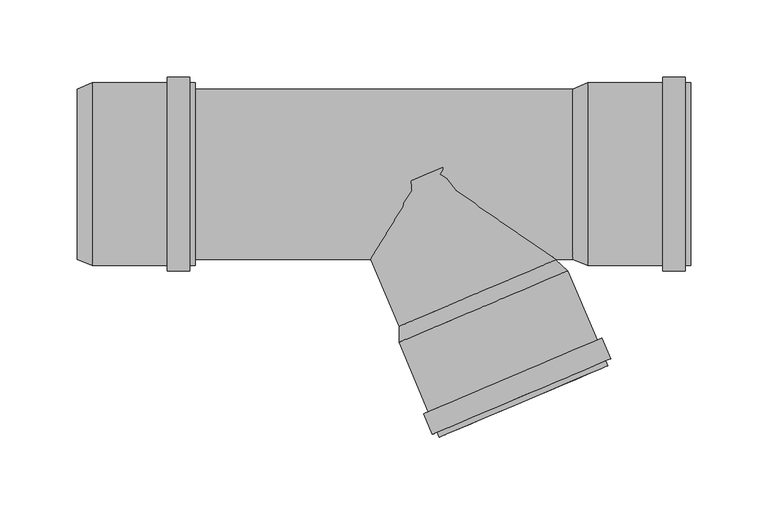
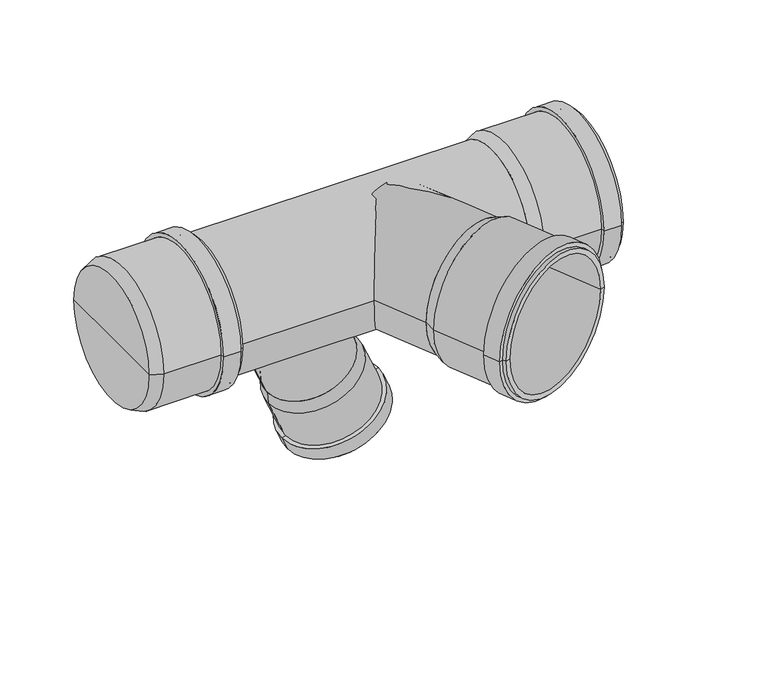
"""IFC4 building model written with IfcOpenShell, lengths in millimetres: pipe fitting geometry, pf_HTEP : pf_HTEP."""

from ifc_helpers import new_model, si_unit, point, frame, origin, origin_2d, place, context, project, spatial, polyline, circle_curve, trimmed, segment, composite_curve, outline, extrude, source, transform, mapped, element, save
from ifc_brep_helpers import plane_surface, cylinder_surface, revolved_surface, advanced_brep


def pipe_fitting_9d72f216(model_context):
    return source(origin(), model_context, "Body", "SolidModel", [
        advanced_brep(
        [(-94.7034701, 0.0, -94.5522386), (-25.665606, 0.0, -65.247404), (-19.1000953, 0.0, -72.7809336), (-93.8450894, 0.0, -104.5083012), (-60.184538, 0.0, -79.8998213), (-73.7224363, 0.0, -151.9143012), (1.0225578, 0.0, -120.1869335), (-1.8310072, 0.0, -121.3982), (-70.8688712, 0.0, -150.7030347), (-75.0509221, 0.0, -148.7845847), (-0.305928, 0.0, -117.057217), (-78.1806386, 0.0, -150.1130705), (2.8237885, 0.0, -115.7287312), (-82.7131197, 0.0, -139.4352142), (-1.7086926, 0.0, -105.0508749), (-79.5834032, 0.0, -138.1067284), (-4.8384091, 0.0, -106.3793607), (-90.9915243, 0.0, -103.2970347), (-21.9536603, 0.0, -73.9922001), (-56.4725923, 0.0, -88.6446174)],
        [
            (0, 1, circle_curve(frame((-60.184538, 0.0, -79.8998213), z_axis=(0.39073112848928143, 0.0, -0.920504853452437), x_axis=(0.920504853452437, 0.0, 0.39073112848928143)), 37.5)),
            (1, 2),
            (2, 3, circle_curve(frame((-56.4725923, 0.0, -88.6446174), z_axis=(-0.39073112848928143, 0.0, 0.920504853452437), x_axis=(0.920504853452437, 0.0, 0.39073112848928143)), 40.6)),
            (3, 0),
            (1, 0, circle_curve(frame((-60.184538, 0.0, -79.8998213), z_axis=(0.39073112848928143, 0.0, -0.920504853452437), x_axis=(0.920504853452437, 0.0, 0.39073112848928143)), 37.5)),
            (3, 2, circle_curve(frame((-56.4725923, 0.0, -88.6446174), z_axis=(-0.39073112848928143, 0.0, 0.920504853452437), x_axis=(0.920504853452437, 0.0, 0.39073112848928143)), 40.6)),
            (4, 1),
            (0, 4),
            (5, 6, circle_curve(frame((-36.3499392, 0.0, -136.0506173), z_axis=(0.39073112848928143, 0.0, -0.920504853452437), x_axis=(0.920504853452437, 0.0, 0.39073112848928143)), 40.6)),
            (6, 7),
            (7, 8, circle_curve(frame((-36.3499392, 0.0, -136.0506173), z_axis=(-0.39073112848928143, 0.0, 0.920504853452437), x_axis=(0.920504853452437, 0.0, 0.39073112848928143)), 37.5)),
            (8, 5),
            (6, 5, circle_curve(frame((-36.3499392, 0.0, -136.0506173), z_axis=(0.39073112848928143, 0.0, -0.920504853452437), x_axis=(0.920504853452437, 0.0, 0.39073112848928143)), 40.6)),
            (8, 7, circle_curve(frame((-36.3499392, 0.0, -136.0506173), z_axis=(-0.39073112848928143, 0.0, 0.920504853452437), x_axis=(0.920504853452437, 0.0, 0.39073112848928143)), 37.5)),
            (9, 10, circle_curve(frame((-37.678425, 0.0, -132.9209008), z_axis=(0.39073112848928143, 0.0, -0.920504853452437), x_axis=(0.920504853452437, 0.0, 0.39073112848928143)), 40.6)),
            (10, 6),
            (5, 9),
            (10, 9, circle_curve(frame((-37.678425, 0.0, -132.9209008), z_axis=(0.39073112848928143, 0.0, -0.920504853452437), x_axis=(0.920504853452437, 0.0, 0.39073112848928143)), 40.6)),
            (11, 12, circle_curve(frame((-37.678425, 0.0, -132.9209008), z_axis=(0.39073112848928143, 0.0, -0.920504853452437), x_axis=(0.920504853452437, 0.0, 0.39073112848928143)), 44.0)),
            (12, 10),
            (9, 11),
            (12, 11, circle_curve(frame((-37.678425, 0.0, -132.9209008), z_axis=(0.39073112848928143, 0.0, -0.920504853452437), x_axis=(0.920504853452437, 0.0, 0.39073112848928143)), 44.0)),
            (13, 14, circle_curve(frame((-42.2109061, 0.0, -122.2430445), z_axis=(0.39073112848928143, 0.0, -0.920504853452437), x_axis=(0.920504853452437, 0.0, 0.39073112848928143)), 44.0)),
            (14, 12),
            (11, 13),
            (14, 13, circle_curve(frame((-42.2109061, 0.0, -122.2430445), z_axis=(0.39073112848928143, 0.0, -0.920504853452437), x_axis=(0.920504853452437, 0.0, 0.39073112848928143)), 44.0)),
            (15, 16, circle_curve(frame((-42.2109061, 0.0, -122.2430445), z_axis=(0.39073112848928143, 0.0, -0.920504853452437), x_axis=(0.920504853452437, 0.0, 0.39073112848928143)), 40.6)),
            (16, 14),
            (13, 15),
            (16, 15, circle_curve(frame((-42.2109061, 0.0, -122.2430445), z_axis=(0.39073112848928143, 0.0, -0.920504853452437), x_axis=(0.920504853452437, 0.0, 0.39073112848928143)), 40.6)),
            (2, 16),
            (15, 3),
            (17, 18, circle_curve(frame((-56.4725923, 0.0, -88.6446174), z_axis=(0.39073112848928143, 0.0, -0.920504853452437), x_axis=(0.920504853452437, 0.0, 0.39073112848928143)), 37.5)),
            (18, 19),
            (19, 17),
            (18, 17, circle_curve(frame((-56.4725923, 0.0, -88.6446174), z_axis=(0.39073112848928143, 0.0, -0.920504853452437), x_axis=(0.920504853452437, 0.0, 0.39073112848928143)), 37.5)),
            (7, 18),
            (17, 8),
        ],
        [
            revolved_surface(polyline([(-19.1000953, 0.0, -72.7809336), (-25.665606, 0.0, -65.247404)]), (-60.184538, 0.0, -79.8998213), (-0.39073112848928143, 0.0, 0.920504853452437)),
            plane_surface(frame((-60.184538, 0.0, -79.8998213), z_axis=(-0.39073112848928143, 0.0, 0.920504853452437), x_axis=(0.920504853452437, 0.0, 0.39073112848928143))),
            plane_surface(frame((-36.3499392, 0.0, -136.0506173), z_axis=(0.39073112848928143, 0.0, -0.920504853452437), x_axis=(0.920504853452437, 0.0, 0.39073112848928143))),
            cylinder_surface(frame((-60.184538, 0.0, -79.8998213), z_axis=(-0.39073112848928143, 0.0, 0.920504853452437), x_axis=(0.920504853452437, 0.0, 0.39073112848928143)), 40.6),
            plane_surface(frame((-37.678425, 0.0, -132.9209008), z_axis=(0.39073112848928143, 0.0, -0.920504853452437), x_axis=(0.920504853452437, 0.0, 0.39073112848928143))),
            cylinder_surface(frame((-60.184538, 0.0, -79.8998213), z_axis=(-0.39073112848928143, 0.0, 0.920504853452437), x_axis=(0.920504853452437, 0.0, 0.39073112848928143)), 44.0),
            plane_surface(frame((-42.2109061, 0.0, -122.2430445), z_axis=(-0.39073112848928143, 0.0, 0.920504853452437), x_axis=(0.920504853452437, 0.0, 0.39073112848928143))),
            plane_surface(frame((-56.4725923, 0.0, -88.6446174), z_axis=(0.39073112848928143, 0.0, -0.920504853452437), x_axis=(0.920504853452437, 0.0, 0.39073112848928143))),
            revolved_surface(polyline([(-21.953660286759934, 0.0, -73.99220006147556), (-1.831007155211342, 0.0, -121.39820004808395)]), (-60.184538, 0.0, -79.8998213), (-0.39073112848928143, 0.0, 0.920504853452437)),
        ],
        [
            (0, [[1, 2, 3, 4]]),
            (0, [[5, -4, 6, -2]]),
            (1, [[7, -1, 8]]),
            (1, [[-8, -5, -7]]),
            (2, [[9, 10, 11, 12]]),
            (2, [[13, -12, 14, -10]]),
            (3, [[15, 16, -9, 17]]),
            (3, [[18, -17, -13, -16]]),
            (4, [[19, 20, -15, 21]]),
            (4, [[22, -21, -18, -20]]),
            (5, [[23, 24, -19, 25]]),
            (5, [[26, -25, -22, -24]]),
            (6, [[27, 28, -23, 29]]),
            (6, [[30, -29, -26, -28]]),
            (3, [[-3, 31, -27, 32]]),
            (3, [[-6, -32, -30, -31]]),
            (7, [[33, 34, 35]]),
            (7, [[36, -35, -34]]),
            (8, [[-11, 37, -33, 38]]),
            (8, [[-14, -38, -36, -37]]),
        ],
    ),
        advanced_brep(
        [(-18.0017177, -98.3523673, 0.0), (83.2538162, -55.3719432, 0.0), (90.7398318, -62.5147417, 0.0), (-18.0638419, -108.6991611, 0.0), (32.6260492, -76.8621553, 0.0), (7.9197782, -169.9127338, 0.0), (116.7234518, -123.7283144, 0.0), (112.9493819, -125.3303121, 0.0), (11.6938481, -168.3107362, 0.0), (6.5912923, -166.7830173, 0.0), (115.394966, -120.5985979, 0.0), (3.4615758, -168.1115032, 0.0), (118.5246825, -119.2701121, 0.0), (-2.2040255, -154.7641828, 0.0), (112.8590811, -105.9227917, 0.0), (0.925691, -153.4356969, 0.0), (109.7293646, -107.2512776, 0.0), (-14.289772, -107.0971634, 0.0), (86.9657619, -64.1167393, 0.0), (36.3379949, -85.6069514, 0.0)],
        [
            (0, 1, circle_curve(frame((32.6260492, -76.8621553, 0.0), z_axis=(0.3907311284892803, -0.9205048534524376, 0.0), x_axis=(0.9205048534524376, 0.3907311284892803, 0.0)), 55.0)),
            (1, 2),
            (2, 3, circle_curve(frame((36.3379949, -85.6069514, 0.0), z_axis=(-0.3907311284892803, 0.9205048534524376, 0.0), x_axis=(0.9205048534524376, 0.3907311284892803, 0.0)), 59.1)),
            (3, 0),
            (1, 0, circle_curve(frame((32.6260492, -76.8621553, 0.0), z_axis=(0.3907311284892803, -0.9205048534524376, 0.0), x_axis=(0.9205048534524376, 0.3907311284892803, 0.0)), 55.0)),
            (3, 2, circle_curve(frame((36.3379949, -85.6069514, 0.0), z_axis=(-0.3907311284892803, 0.9205048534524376, 0.0), x_axis=(0.9205048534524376, 0.3907311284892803, 0.0)), 59.1)),
            (4, 1),
            (0, 4),
            (5, 6, circle_curve(frame((62.321615, -146.8205241, 0.0), z_axis=(0.3907311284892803, -0.9205048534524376, 0.0), x_axis=(0.9205048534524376, 0.3907311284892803, 0.0)), 59.1)),
            (6, 7),
            (7, 8, circle_curve(frame((62.321615, -146.8205241, 0.0), z_axis=(-0.3907311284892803, 0.9205048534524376, 0.0), x_axis=(0.9205048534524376, 0.3907311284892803, 0.0)), 55.0)),
            (8, 5),
            (6, 5, circle_curve(frame((62.321615, -146.8205241, 0.0), z_axis=(0.3907311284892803, -0.9205048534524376, 0.0), x_axis=(0.9205048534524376, 0.3907311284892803, 0.0)), 59.1)),
            (8, 7, circle_curve(frame((62.321615, -146.8205241, 0.0), z_axis=(-0.3907311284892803, 0.9205048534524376, 0.0), x_axis=(0.9205048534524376, 0.3907311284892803, 0.0)), 55.0)),
            (9, 10, circle_curve(frame((60.9931292, -143.6908076, 0.0), z_axis=(0.3907311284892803, -0.9205048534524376, 0.0), x_axis=(0.9205048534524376, 0.3907311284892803, 0.0)), 59.1)),
            (10, 6),
            (5, 9),
            (10, 9, circle_curve(frame((60.9931292, -143.6908076, 0.0), z_axis=(0.3907311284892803, -0.9205048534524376, 0.0), x_axis=(0.9205048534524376, 0.3907311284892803, 0.0)), 59.1)),
            (11, 12, circle_curve(frame((60.9931292, -143.6908076, 0.0), z_axis=(0.3907311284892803, -0.9205048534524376, 0.0), x_axis=(0.9205048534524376, 0.3907311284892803, 0.0)), 62.5)),
            (12, 10),
            (9, 11),
            (12, 11, circle_curve(frame((60.9931292, -143.6908076, 0.0), z_axis=(0.3907311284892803, -0.9205048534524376, 0.0), x_axis=(0.9205048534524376, 0.3907311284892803, 0.0)), 62.5)),
            (13, 14, circle_curve(frame((55.3275278, -130.3434872, 0.0), z_axis=(0.3907311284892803, -0.9205048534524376, 0.0), x_axis=(0.9205048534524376, 0.3907311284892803, 0.0)), 62.5)),
            (14, 12),
            (11, 13),
            (14, 13, circle_curve(frame((55.3275278, -130.3434872, 0.0), z_axis=(0.3907311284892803, -0.9205048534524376, 0.0), x_axis=(0.9205048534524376, 0.3907311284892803, 0.0)), 62.5)),
            (15, 16, circle_curve(frame((55.3275278, -130.3434872, 0.0), z_axis=(0.3907311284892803, -0.9205048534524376, 0.0), x_axis=(0.9205048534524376, 0.3907311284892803, 0.0)), 59.1)),
            (16, 14),
            (13, 15),
            (16, 15, circle_curve(frame((55.3275278, -130.3434872, 0.0), z_axis=(0.3907311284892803, -0.9205048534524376, 0.0), x_axis=(0.9205048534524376, 0.3907311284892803, 0.0)), 59.1)),
            (2, 16),
            (15, 3),
            (17, 18, circle_curve(frame((36.3379949, -85.6069514, 0.0), z_axis=(0.3907311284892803, -0.9205048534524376, 0.0), x_axis=(0.9205048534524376, 0.3907311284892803, 0.0)), 55.0)),
            (18, 19),
            (19, 17),
            (18, 17, circle_curve(frame((36.3379949, -85.6069514, 0.0), z_axis=(0.3907311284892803, -0.9205048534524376, 0.0), x_axis=(0.9205048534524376, 0.3907311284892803, 0.0)), 55.0)),
            (7, 18),
            (17, 8),
        ],
        [
            revolved_surface(polyline([(90.7398318, -62.5147417, 0.0), (83.2538162, -55.3719432, 0.0)]), (32.6260492, -76.8621553, 0.0), (-0.3907311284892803, 0.9205048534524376, 0.0)),
            plane_surface(frame((32.6260492, -76.8621553, 0.0), z_axis=(-0.3907311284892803, 0.9205048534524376, 0.0), x_axis=(0.9205048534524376, 0.3907311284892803, 0.0))),
            plane_surface(frame((62.321615, -146.8205241, 0.0), z_axis=(0.3907311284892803, -0.9205048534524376, 0.0), x_axis=(0.9205048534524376, 0.3907311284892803, 0.0))),
            cylinder_surface(frame((32.6260492, -76.8621553, 0.0), z_axis=(-0.3907311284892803, 0.9205048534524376, 0.0), x_axis=(0.9205048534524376, 0.3907311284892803, 0.0)), 59.1),
            plane_surface(frame((60.9931292, -143.6908076, 0.0), z_axis=(0.3907311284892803, -0.9205048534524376, 0.0), x_axis=(0.9205048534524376, 0.3907311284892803, 0.0))),
            cylinder_surface(frame((32.6260492, -76.8621553, 0.0), z_axis=(-0.3907311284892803, 0.9205048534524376, 0.0), x_axis=(0.9205048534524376, 0.3907311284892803, 0.0)), 62.5),
            plane_surface(frame((55.3275278, -130.3434872, 0.0), z_axis=(-0.3907311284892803, 0.9205048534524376, 0.0), x_axis=(0.9205048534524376, 0.3907311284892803, 0.0))),
            plane_surface(frame((36.3379949, -85.6069514, 0.0), z_axis=(0.3907311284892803, -0.9205048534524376, 0.0), x_axis=(0.9205048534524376, 0.3907311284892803, 0.0))),
            revolved_surface(polyline([(86.96576183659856, -64.11673928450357, 0.0), (112.94938190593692, -125.33031209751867, 0.0)]), (32.6260492, -76.8621553, 0.0), (-0.3907311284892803, 0.9205048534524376, 0.0)),
        ],
        [
            (0, [[1, 2, 3, 4]]),
            (0, [[5, -4, 6, -2]]),
            (1, [[7, -1, 8]]),
            (1, [[-8, -5, -7]]),
            (2, [[9, 10, 11, 12]]),
            (2, [[13, -12, 14, -10]]),
            (3, [[15, 16, -9, 17]]),
            (3, [[18, -17, -13, -16]]),
            (4, [[19, 20, -15, 21]]),
            (4, [[22, -21, -18, -20]]),
            (5, [[23, 24, -19, 25]]),
            (5, [[26, -25, -22, -24]]),
            (6, [[27, 28, -23, 29]]),
            (6, [[30, -29, -26, -28]]),
            (3, [[-3, 31, -27, 32]]),
            (3, [[-6, -32, -30, -31]]),
            (7, [[33, 34, 35]]),
            (7, [[36, -35, -34]]),
            (8, [[-11, 37, -33, 38]]),
            (8, [[-14, -38, -36, -37]]),
        ],
    ),
        advanced_brep(
        [(94.1, -55.0, 0.0), (94.1, 55.0, 0.0), (103.6, 59.1, 0.0), (103.6, -59.1, 0.0), (94.1, 0.0, 0.0), (170.1, -59.1, 0.0), (170.1, 59.1, 0.0), (170.1, 55.0, 0.0), (170.1, -55.0, 0.0), (166.7, -59.1, 0.0), (166.7, 59.1, 0.0), (166.7, -62.5, 0.0), (166.7, 62.5, 0.0), (152.2, -62.5, 0.0), (152.2, 62.5, 0.0), (152.2, -59.1, 0.0), (152.2, 59.1, 0.0), (103.6, -55.0, 0.0), (103.6, 55.0, 0.0), (103.6, 0.0, 0.0)],
        [
            (0, 1, circle_curve(frame((94.1, 0.0, 0.0), z_axis=(1.0, 0.0, 0.0), x_axis=(0.0, 1.0, 0.0)), 55.0)),
            (1, 2),
            (2, 3, circle_curve(frame((103.6, 0.0, 0.0), z_axis=(-1.0, 0.0, 0.0), x_axis=(0.0, 1.0, 0.0)), 59.1)),
            (3, 0),
            (1, 0, circle_curve(frame((94.1, 0.0, 0.0), z_axis=(1.0, 0.0, 0.0), x_axis=(0.0, 1.0, 0.0)), 55.0)),
            (3, 2, circle_curve(frame((103.6, 0.0, 0.0), z_axis=(-1.0, 0.0, 0.0), x_axis=(0.0, 1.0, 0.0)), 59.1)),
            (4, 1),
            (0, 4),
            (5, 6, circle_curve(frame((170.1, 0.0, 0.0), z_axis=(1.0, 0.0, 0.0), x_axis=(0.0, 1.0, 0.0)), 59.1)),
            (6, 7),
            (7, 8, circle_curve(frame((170.1, 0.0, 0.0), z_axis=(-1.0, 0.0, 0.0), x_axis=(0.0, 1.0, 0.0)), 55.0)),
            (8, 5),
            (6, 5, circle_curve(frame((170.1, 0.0, 0.0), z_axis=(1.0, 0.0, 0.0), x_axis=(0.0, 1.0, 0.0)), 59.1)),
            (8, 7, circle_curve(frame((170.1, 0.0, 0.0), z_axis=(-1.0, 0.0, 0.0), x_axis=(0.0, 1.0, 0.0)), 55.0)),
            (9, 10, circle_curve(frame((166.7, 0.0, 0.0), z_axis=(1.0, 0.0, 0.0), x_axis=(0.0, 1.0, 0.0)), 59.1)),
            (10, 6),
            (5, 9),
            (10, 9, circle_curve(frame((166.7, 0.0, 0.0), z_axis=(1.0, 0.0, 0.0), x_axis=(0.0, 1.0, 0.0)), 59.1)),
            (11, 12, circle_curve(frame((166.7, 0.0, 0.0), z_axis=(1.0, 0.0, 0.0), x_axis=(0.0, 1.0, 0.0)), 62.5)),
            (12, 10),
            (9, 11),
            (12, 11, circle_curve(frame((166.7, 0.0, 0.0), z_axis=(1.0, 0.0, 0.0), x_axis=(0.0, 1.0, 0.0)), 62.5)),
            (13, 14, circle_curve(frame((152.2, 0.0, 0.0), z_axis=(1.0, 0.0, 0.0), x_axis=(0.0, 1.0, 0.0)), 62.5)),
            (14, 12),
            (11, 13),
            (14, 13, circle_curve(frame((152.2, 0.0, 0.0), z_axis=(1.0, 0.0, 0.0), x_axis=(0.0, 1.0, 0.0)), 62.5)),
            (15, 16, circle_curve(frame((152.2, 0.0, 0.0), z_axis=(1.0, 0.0, 0.0), x_axis=(0.0, 1.0, 0.0)), 59.1)),
            (16, 14),
            (13, 15),
            (16, 15, circle_curve(frame((152.2, 0.0, 0.0), z_axis=(1.0, 0.0, 0.0), x_axis=(0.0, 1.0, 0.0)), 59.1)),
            (2, 16),
            (15, 3),
            (17, 18, circle_curve(frame((103.6, 0.0, 0.0), z_axis=(1.0, 0.0, 0.0), x_axis=(0.0, 1.0, 0.0)), 55.0)),
            (18, 19),
            (19, 17),
            (18, 17, circle_curve(frame((103.6, 0.0, 0.0), z_axis=(1.0, 0.0, 0.0), x_axis=(0.0, 1.0, 0.0)), 55.0)),
            (7, 18),
            (17, 8),
        ],
        [
            revolved_surface(polyline([(103.6, 59.1, 0.0), (94.1, 55.0, 0.0)]), (94.1, 0.0, 0.0), (-1.0, 0.0, 0.0)),
            plane_surface(frame((94.1, 0.0, 0.0), z_axis=(-1.0, 0.0, 0.0), x_axis=(0.0, 1.0, 0.0))),
            plane_surface(frame((170.1, 0.0, 0.0), z_axis=(1.0, 0.0, 0.0), x_axis=(0.0, 1.0, 0.0))),
            cylinder_surface(frame((94.1, 0.0, 0.0), z_axis=(-1.0, 0.0, 0.0), x_axis=(0.0, 1.0, 0.0)), 59.1),
            plane_surface(frame((166.7, 0.0, 0.0), z_axis=(1.0, 0.0, 0.0), x_axis=(0.0, 1.0, 0.0))),
            cylinder_surface(frame((94.1, 0.0, 0.0), z_axis=(-1.0, 0.0, 0.0), x_axis=(0.0, 1.0, 0.0)), 62.5),
            plane_surface(frame((152.2, 0.0, 0.0), z_axis=(-1.0, 0.0, 0.0), x_axis=(0.0, 1.0, 0.0))),
            plane_surface(frame((103.6, 0.0, 0.0), z_axis=(1.0, 0.0, 0.0), x_axis=(0.0, 1.0, 0.0))),
            revolved_surface(polyline([(103.6, 55.0, 0.0), (170.1, 55.0, 0.0)]), (94.1, 0.0, 0.0), (-1.0, 0.0, 0.0)),
        ],
        [
            (0, [[1, 2, 3, 4]]),
            (0, [[5, -4, 6, -2]]),
            (1, [[7, -1, 8]]),
            (1, [[-8, -5, -7]]),
            (2, [[9, 10, 11, 12]]),
            (2, [[13, -12, 14, -10]]),
            (3, [[15, 16, -9, 17]]),
            (3, [[18, -17, -13, -16]]),
            (4, [[19, 20, -15, 21]]),
            (4, [[22, -21, -18, -20]]),
            (5, [[23, 24, -19, 25]]),
            (5, [[26, -25, -22, -24]]),
            (6, [[27, 28, -23, 29]]),
            (6, [[30, -29, -26, -28]]),
            (3, [[-3, 31, -27, 32]]),
            (3, [[-6, -32, -30, -31]]),
            (7, [[33, 34, 35]]),
            (7, [[36, -35, -34]]),
            (8, [[-11, 37, -33, 38]]),
            (8, [[-14, -38, -36, -37]]),
        ],
    ),
        advanced_brep(
        [(-225.6, -55.0, 0.0), (-225.6, 55.0, 0.0), (-216.1, 59.1, 0.0), (-216.1, -59.1, 0.0), (-225.6, 0.0, 0.0), (-149.6, -59.1, 0.0), (-149.6, 59.1, 0.0), (-149.6, 55.0, 0.0), (-149.6, -55.0, 0.0), (-153.0, -59.1, 0.0), (-153.0, 59.1, 0.0), (-153.0, -62.5, 0.0), (-153.0, 62.5, 0.0), (-167.5, -62.5, 0.0), (-167.5, 62.5, 0.0), (-167.5, -59.1, 0.0), (-167.5, 59.1, 0.0), (-216.1, -55.0, 0.0), (-216.1, 55.0, 0.0), (-216.1, 0.0, 0.0)],
        [
            (0, 1, circle_curve(frame((-225.6, 0.0, 0.0), z_axis=(1.0, 0.0, 0.0), x_axis=(0.0, 1.0, 0.0)), 55.0)),
            (1, 2),
            (2, 3, circle_curve(frame((-216.1, 0.0, 0.0), z_axis=(-1.0, 0.0, 0.0), x_axis=(0.0, 1.0, 0.0)), 59.1)),
            (3, 0),
            (1, 0, circle_curve(frame((-225.6, 0.0, 0.0), z_axis=(1.0, 0.0, 0.0), x_axis=(0.0, 1.0, 0.0)), 55.0)),
            (3, 2, circle_curve(frame((-216.1, 0.0, 0.0), z_axis=(-1.0, 0.0, 0.0), x_axis=(0.0, 1.0, 0.0)), 59.1)),
            (4, 1),
            (0, 4),
            (5, 6, circle_curve(frame((-149.6, 0.0, 0.0), z_axis=(1.0, 0.0, 0.0), x_axis=(0.0, 1.0, 0.0)), 59.1)),
            (6, 7),
            (7, 8, circle_curve(frame((-149.6, 0.0, 0.0), z_axis=(-1.0, 0.0, 0.0), x_axis=(0.0, 1.0, 0.0)), 55.0)),
            (8, 5),
            (6, 5, circle_curve(frame((-149.6, 0.0, 0.0), z_axis=(1.0, 0.0, 0.0), x_axis=(0.0, 1.0, 0.0)), 59.1)),
            (8, 7, circle_curve(frame((-149.6, 0.0, 0.0), z_axis=(-1.0, 0.0, 0.0), x_axis=(0.0, 1.0, 0.0)), 55.0)),
            (9, 10, circle_curve(frame((-153.0, 0.0, 0.0), z_axis=(1.0, 0.0, 0.0), x_axis=(0.0, 1.0, 0.0)), 59.1)),
            (10, 6),
            (5, 9),
            (10, 9, circle_curve(frame((-153.0, 0.0, 0.0), z_axis=(1.0, 0.0, 0.0), x_axis=(0.0, 1.0, 0.0)), 59.1)),
            (11, 12, circle_curve(frame((-153.0, 0.0, 0.0), z_axis=(1.0, 0.0, 0.0), x_axis=(0.0, 1.0, 0.0)), 62.5)),
            (12, 10),
            (9, 11),
            (12, 11, circle_curve(frame((-153.0, 0.0, 0.0), z_axis=(1.0, 0.0, 0.0), x_axis=(0.0, 1.0, 0.0)), 62.5)),
            (13, 14, circle_curve(frame((-167.5, 0.0, 0.0), z_axis=(1.0, 0.0, 0.0), x_axis=(0.0, 1.0, 0.0)), 62.5)),
            (14, 12),
            (11, 13),
            (14, 13, circle_curve(frame((-167.5, 0.0, 0.0), z_axis=(1.0, 0.0, 0.0), x_axis=(0.0, 1.0, 0.0)), 62.5)),
            (15, 16, circle_curve(frame((-167.5, 0.0, 0.0), z_axis=(1.0, 0.0, 0.0), x_axis=(0.0, 1.0, 0.0)), 59.1)),
            (16, 14),
            (13, 15),
            (16, 15, circle_curve(frame((-167.5, 0.0, 0.0), z_axis=(1.0, 0.0, 0.0), x_axis=(0.0, 1.0, 0.0)), 59.1)),
            (2, 16),
            (15, 3),
            (17, 18, circle_curve(frame((-216.1, 0.0, 0.0), z_axis=(1.0, 0.0, 0.0), x_axis=(0.0, 1.0, 0.0)), 55.0)),
            (18, 19),
            (19, 17),
            (18, 17, circle_curve(frame((-216.1, 0.0, 0.0), z_axis=(1.0, 0.0, 0.0), x_axis=(0.0, 1.0, 0.0)), 55.0)),
            (7, 18),
            (17, 8),
        ],
        [
            revolved_surface(polyline([(-216.1, 59.1, 0.0), (-225.6, 55.0, 0.0)]), (-225.6, 0.0, 0.0), (-1.0, 0.0, 0.0)),
            plane_surface(frame((-225.6, 0.0, 0.0), z_axis=(-1.0, 0.0, 0.0), x_axis=(0.0, 1.0, 0.0))),
            plane_surface(frame((-149.6, 0.0, 0.0), z_axis=(1.0, 0.0, 0.0), x_axis=(0.0, 1.0, 0.0))),
            cylinder_surface(frame((-225.6, 0.0, 0.0), z_axis=(-1.0, 0.0, 0.0), x_axis=(0.0, 1.0, 0.0)), 59.1),
            plane_surface(frame((-153.0, 0.0, 0.0), z_axis=(1.0, 0.0, 0.0), x_axis=(0.0, 1.0, 0.0))),
            cylinder_surface(frame((-225.6, 0.0, 0.0), z_axis=(-1.0, 0.0, 0.0), x_axis=(0.0, 1.0, 0.0)), 62.5),
            plane_surface(frame((-167.5, 0.0, 0.0), z_axis=(-1.0, 0.0, 0.0), x_axis=(0.0, 1.0, 0.0))),
            plane_surface(frame((-216.1, 0.0, 0.0), z_axis=(1.0, 0.0, 0.0), x_axis=(0.0, 1.0, 0.0))),
            revolved_surface(polyline([(-216.1, 55.0, 0.0), (-149.6, 55.0, 0.0)]), (-225.6, 0.0, 0.0), (-1.0, 0.0, 0.0)),
        ],
        [
            (0, [[1, 2, 3, 4]]),
            (0, [[5, -4, 6, -2]]),
            (1, [[7, -1, 8]]),
            (1, [[-8, -5, -7]]),
            (2, [[9, 10, 11, 12]]),
            (2, [[13, -12, 14, -10]]),
            (3, [[15, 16, -9, 17]]),
            (3, [[18, -17, -13, -16]]),
            (4, [[19, 20, -15, 21]]),
            (4, [[22, -21, -18, -20]]),
            (5, [[23, 24, -19, 25]]),
            (5, [[26, -25, -22, -24]]),
            (6, [[27, 28, -23, 29]]),
            (6, [[30, -29, -26, -28]]),
            (3, [[-3, 31, -27, 32]]),
            (3, [[-6, -32, -30, -31]]),
            (7, [[33, 34, 35]]),
            (7, [[36, -35, -34]]),
            (8, [[-11, 37, -33, 38]]),
            (8, [[-14, -38, -36, -37]]),
        ],
    ),
        extrude(outline(composite_curve([segment(trimmed(circle_curve(origin_2d(), 37.5), [point((0.0, -37.5000001))], [point((0.0, 37.5))], False, "CARTESIAN"), True, "CONTINUOUS"), segment(trimmed(circle_curve(origin_2d(), 37.5), [point((0.0, 37.5))], [point((0.0, -37.5000001))], False, "CARTESIAN"), True, "CONTINUOUS")], self_intersect=False)), frame((-60.184538, 0.0, -79.8998213), z_axis=(-0.39073112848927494, 0.0, 0.9205048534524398), x_axis=(0.0, -1.0, 0.0)), (0.0, 0.0, 1.0), 86.8),
        extrude(outline(composite_curve([segment(trimmed(circle_curve(origin_2d(), 55.0), [point((0.0, -54.9999999))], [point((0.0, 55.0000001))], False, "CARTESIAN"), True, "CONTINUOUS"), segment(trimmed(circle_curve(origin_2d(), 55.0), [point((0.0, 55.0000001))], [point((0.0, -54.9999999))], False, "CARTESIAN"), True, "CONTINUOUS")], self_intersect=False)), frame((32.6260492, -76.8621553, 0.0), z_axis=(-0.39073112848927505, 0.9205048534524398, 0.0), x_axis=(0.0, 0.0, 1.0)), (0.0, 0.0, 1.0), 83.5),
        extrude(outline(composite_curve([segment(trimmed(circle_curve(origin_2d(), 55.0), [point((-55.0, 0.0))], [point((55.0, 0.0))], False, "CARTESIAN"), True, "CONTINUOUS"), segment(trimmed(circle_curve(origin_2d(), 55.0), [point((55.0, 0.0))], [point((-55.0, 0.0))], False, "CARTESIAN"), True, "CONTINUOUS")], self_intersect=False)), frame((-149.6, 0.0, 0.0), z_axis=(1.0, 0.0, 0.0), x_axis=(0.0, 1.0, 0.0)), (0.0, 0.0, 1.0), 243.7),
    ])


if __name__ == "__main__":
    model = new_model("IFC4")
    model_context = context("Model", 3, world=origin())
    ifc_project = project(units=[si_unit("LENGTHUNIT", "METRE", prefix="MILLI")], contexts=[model_context])
    site = spatial("IfcSite", under=ifc_project)
    building = spatial("IfcBuilding", under=site)
    placement = place(None, origin())
    pipe_fitting_shape = pipe_fitting_9d72f216(model_context)
    element("IfcPipeFitting", 1, ObjectType="pf_HTEP : pf_HTEP", at=placement, inside=building, context=model_context, shape_type="MappedRepresentation", body=[
        mapped(pipe_fitting_shape, transform((0.0, 0.0, 0.0), x_axis=(1.0, 0.0, 0.0), y_axis=(0.0, 1.0, 0.0), z_axis=(0.0, 0.0, 1.0))),
    ])
    save(model, "model.ifc")
